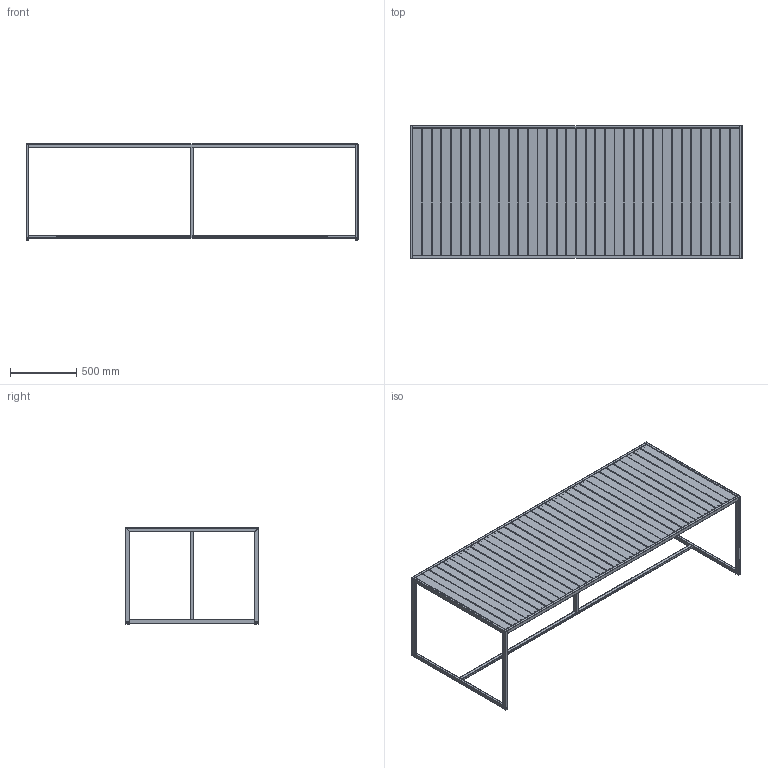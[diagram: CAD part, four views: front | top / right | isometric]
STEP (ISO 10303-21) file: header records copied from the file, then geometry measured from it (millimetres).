
FILE_DESCRIPTION(/* description */ (''),/* implementation_level */ '2;1');
FILE_NAME(/* name */ 'Garden_bistrotable8.stp',/* time_stamp */ '2023-04-11T10:54:14+02:00',/* author */ ('TorbjörnMalm'),/* organization */ (''),/* preprocessor_version */ 'ST-DEVELOPER v19.2',/* originating_system */ 'Autodesk Inventor 2023',/* authorisation */ '');
FILE_SCHEMA (('AUTOMOTIVE_DESIGN { 1 0 10303 214 3 1 1 }'));
Products named in the file (1): Garden_bistrotable8
Bounding box: 2500 x 1000 x 724 mm (x, y, z)
Surface area: 6486917.8 mm2 (no closed solid volume)
Topology: 0 solids, 2001 shells, 4196 faces, 11070 edges, 6754 vertices
Faces by surface type: plane 4196
Entity records: 127979 total; most frequent: CARTESIAN_POINT 22069, ORIENTED_EDGE 20761, DIRECTION 19512, LINE 11118, VECTOR 11118, EDGE_CURVE 11118, VERTEX_POINT 6753, EDGE_LOOP 4292
